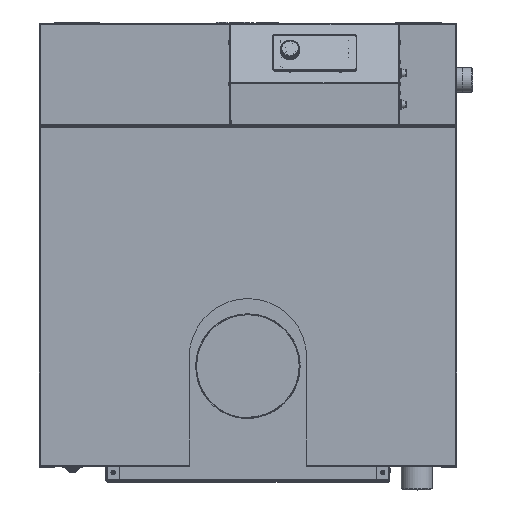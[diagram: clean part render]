
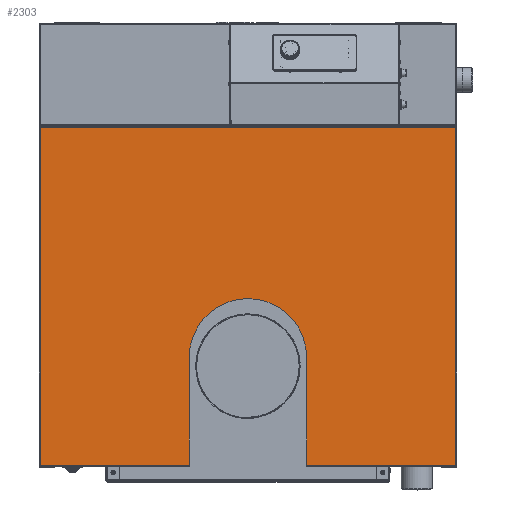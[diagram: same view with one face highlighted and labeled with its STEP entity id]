
A CAD part, top view. The second image highlights one B-rep face of the part: STEP entity #2303.
In plain terms, the highlighted planar face has unit normal (0, 0, 1).
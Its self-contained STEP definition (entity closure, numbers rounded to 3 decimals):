
#2303=ADVANCED_FACE('',(#22255),#22257,.T.);
#22255=FACE_BOUND('',#22256,.T.);
#22256=EDGE_LOOP('',(#53803,#53804,#53805,#53806,#53807,#53808,#53809,#53810));
#22257=PLANE('',#22258);
#22258=AXIS2_PLACEMENT_3D('',#22259,#22260,#22261);
#22259=CARTESIAN_POINT('',(0.,-39.,1065.4));
#22260=DIRECTION('',(0.,0.,1.));
#22261=DIRECTION('',(1.,0.,0.));
#53803=ORIENTED_EDGE('',*,*,#69295,.T.);
#53804=ORIENTED_EDGE('',*,*,#69306,.T.);
#53805=ORIENTED_EDGE('',*,*,#69304,.T.);
#53806=ORIENTED_EDGE('',*,*,#69307,.T.);
#53807=ORIENTED_EDGE('',*,*,#69456,.T.);
#53808=ORIENTED_EDGE('',*,*,#69457,.T.);
#53809=ORIENTED_EDGE('',*,*,#69458,.T.);
#53810=ORIENTED_EDGE('',*,*,#69286,.T.);
#69286=EDGE_CURVE('',#82784,#82787,#83261,.T.);
#69295=EDGE_CURVE('',#82787,#83271,#83273,.F.);
#69304=EDGE_CURVE('',#83287,#82977,#83288,.F.);
#69306=EDGE_CURVE('',#83271,#83287,#83290,.F.);
#69307=EDGE_CURVE('',#82977,#82980,#83291,.T.);
#69456=EDGE_CURVE('',#82980,#83523,#83524,.T.);
#69457=EDGE_CURVE('',#83523,#83525,#83526,.T.);
#69458=EDGE_CURVE('',#83525,#82784,#83527,.T.);
#82784=VERTEX_POINT('',#113845);
#82787=VERTEX_POINT('',#113870);
#82977=VERTEX_POINT('',#114328);
#82980=VERTEX_POINT('',#114336);
#83261=LINE('',#117235,#117236);
#83271=VERTEX_POINT('',#117294);
#83273=LINE('',#117298,#117299);
#83287=VERTEX_POINT('',#117375);
#83288=LINE('',#117376,#117377);
#83290=CIRCLE('',#117382,112.5);
#83291=LINE('',#117386,#117387);
#83523=VERTEX_POINT('',#118126);
#83524=LINE('',#118127,#118128);
#83525=VERTEX_POINT('',#118130);
#83526=LINE('',#118131,#118132);
#83527=LINE('',#118134,#118135);
#113845=CARTESIAN_POINT('',(-398.,-362.5,1065.4));
#113870=CARTESIAN_POINT('',(-112.5,-362.5,1065.4));
#114328=CARTESIAN_POINT('',(112.5,-362.5,1065.4));
#114336=CARTESIAN_POINT('',(398.,-362.5,1065.4));
#117235=CARTESIAN_POINT('',(-398.,-362.5,1065.4));
#117236=VECTOR('',#117237,1.);
#117237=DIRECTION('',(1.,0.,0.));
#117294=CARTESIAN_POINT('',(-112.5,-156.,1065.4));
#117298=CARTESIAN_POINT('',(-112.5,-156.,1065.4));
#117299=VECTOR('',#117300,1.);
#117300=DIRECTION('',(0.,-1.,0.));
#117375=CARTESIAN_POINT('',(112.5,-156.,1065.4));
#117376=CARTESIAN_POINT('',(112.5,-362.5,1065.4));
#117377=VECTOR('',#117378,1.);
#117378=DIRECTION('',(0.,1.,0.));
#117382=AXIS2_PLACEMENT_3D('',#117383,#117384,#117385);
#117383=CARTESIAN_POINT('',(0.,-156.,1065.4));
#117384=DIRECTION('',(-0.,0.,1.));
#117385=DIRECTION('',(1.,0.,0.));
#117386=CARTESIAN_POINT('',(112.5,-362.5,1065.4));
#117387=VECTOR('',#117388,1.);
#117388=DIRECTION('',(1.,0.,0.));
#118126=CARTESIAN_POINT('',(398.,284.5,1065.4));
#118127=CARTESIAN_POINT('',(398.,-362.5,1065.4));
#118128=VECTOR('',#118129,1.);
#118129=DIRECTION('',(0.,1.,0.));
#118130=CARTESIAN_POINT('',(-398.,284.5,1065.4));
#118131=CARTESIAN_POINT('',(398.,284.5,1065.4));
#118132=VECTOR('',#118133,1.);
#118133=DIRECTION('',(-1.,0.,0.));
#118134=CARTESIAN_POINT('',(-398.,284.5,1065.4));
#118135=VECTOR('',#118136,1.);
#118136=DIRECTION('',(0.,-1.,0.));
